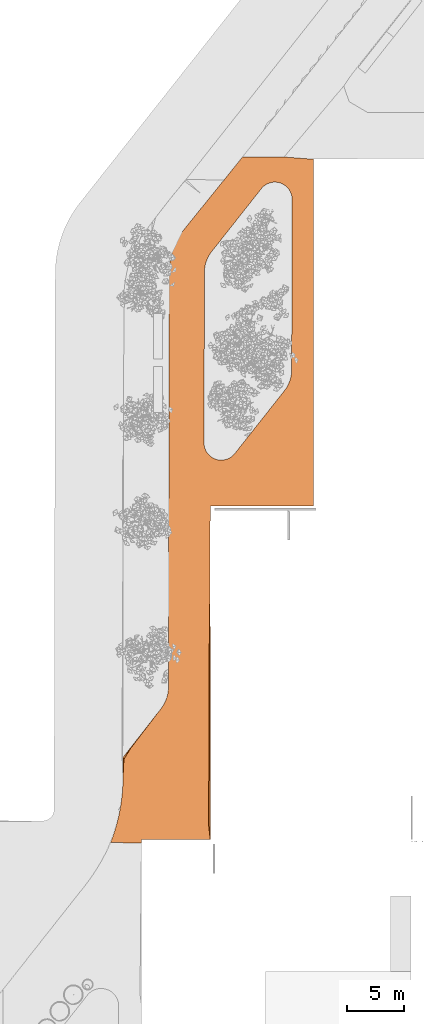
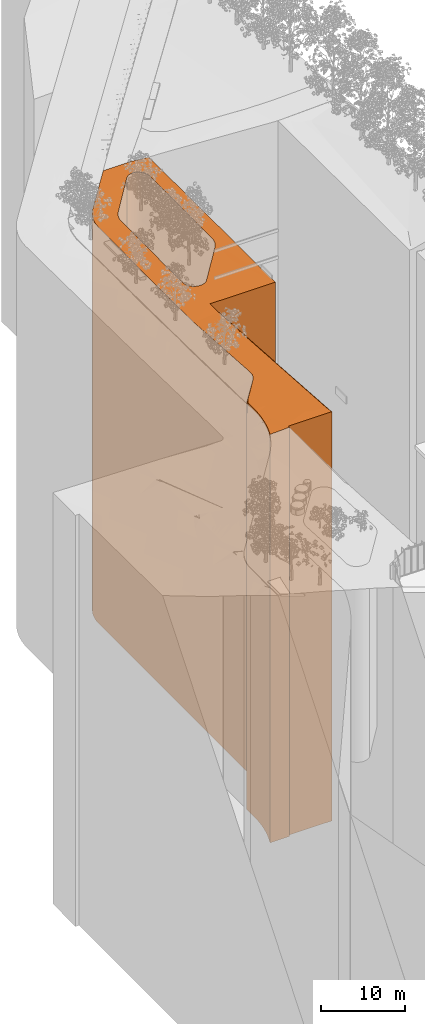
# One storey, part 60 of 69: 1 proxy.
"""IFC2X3 building model written with IfcOpenShell, lengths in millimetres."""

from ifc_helpers import new_model, entity, si_unit, converted_unit, derived_unit, money_unit, direction, frame, origin_with_axes, place, context, subcontext, project, spatial, faceted_brep, material, type_object, element, save


model = new_model("IFC2X3")

# Units and contexts
model_context = context("Model", 3, precision=0.01, world=origin_with_axes(), true_north=direction((0.0, 1.0)))
body_context = subcontext(model_context, "Body", "Model", "MODEL_VIEW")
ifc_project = project(units=[si_unit("LENGTHUNIT", "METRE", prefix="MILLI"), si_unit("AREAUNIT", "SQUARE_METRE"), si_unit("VOLUMEUNIT", "CUBIC_METRE"), converted_unit("PLANEANGLEUNIT", "DEGREE", entity("IfcPlaneAngleMeasure", 0.0174532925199), si_unit("PLANEANGLEUNIT", "RADIAN"), dimensions=[0, 0, 0, 0, 0, 0, 0]), si_unit("SOLIDANGLEUNIT", "STERADIAN"), money_unit("EUR"), converted_unit("TIMEUNIT", "Year", entity("IfcTimeMeasure", 31556926.0), si_unit("TIMEUNIT", "SECOND"), dimensions=[0, 0, 1, 0, 0, 0, 0]), si_unit("MASSUNIT", "GRAM", prefix="KILO"), si_unit("THERMODYNAMICTEMPERATUREUNIT", "DEGREE_CELSIUS"), si_unit("LUMINOUSINTENSITYUNIT", "LUMEN"), si_unit("ENERGYUNIT", "JOULE", prefix="MEGA"), derived_unit("THERMALCONDUCTANCEUNIT", [(si_unit("POWERUNIT", "WATT"), 1), (si_unit("LENGTHUNIT", "METRE"), -1), (si_unit("THERMODYNAMICTEMPERATUREUNIT", "KELVIN"), -1)]), derived_unit("SPECIFICHEATCAPACITYUNIT", [(si_unit("ENERGYUNIT", "JOULE"), 1), (si_unit("MASSUNIT", "GRAM", prefix="KILO"), -1), (si_unit("THERMODYNAMICTEMPERATUREUNIT", "KELVIN"), -1)]), derived_unit("MASSDENSITYUNIT", [(si_unit("MASSUNIT", "GRAM", prefix="KILO"), 1), (si_unit("VOLUMEUNIT", "CUBIC_METRE"), -1)])], contexts=[model_context])

# Site, building, storey
site_placement = place(None, origin_with_axes())
site = spatial("IfcSite", under=ifc_project, at=site_placement, Name="Puškini 31, Narva", CompositionType="ELEMENT")
building_placement = place(site_placement, origin_with_axes())
building = spatial("IfcBuilding", under=site, at=building_placement, Name="Narva Riigigümnaasium", CompositionType="ELEMENT")
storey_placement = place(building_placement, origin_with_axes())
storey = spatial("IfcBuildingStorey", under=building, at=storey_placement, Name="1.korrus 0.00", CompositionType="ELEMENT", Elevation=0.0)

# Proxy
ifc_material = material(Name="Sillutiskivi")
building_element_proxy_type = type_object("IfcBuildingElementProxyType", Name="Sillutiskivi", PredefinedType="NOTDEFINED")
proxy_placement = place(storey_placement, frame((19293.6582923, 194831.390658, -61100.0), z_axis=(0.0, 0.0, 1.0), x_axis=(1.0, 0.0, 0.0)))
element("IfcBuildingElementProxy", 1, at=proxy_placement, inside=storey, type_object=building_element_proxy_type, material=ifc_material, Name="Kergliiklustee", context=body_context, shape_type="Brep", body=[
    faceted_brep([(15827.7346808, 56105.3575711, 57704.752024), (15801.4748314, 44121.6874357, 57701.6866346), (17696.3417079, 59608.6093419, 57710.9791603), (15823.1350635, 56226.0791527, 57704.7689698), (15827.8688624, 56166.5912621, 57704.7676874), (15827.7346808, 56105.3575711, 32257.881548), (15795.2160392, 41265.4908804, 32257.881548), (15795.2160392, 41265.4908804, 57709.9161883), (15671.0011962, 40413.2744079, 57708.8270238), (15642.253169, 40326.3169836, 57708.2502054), (17696.3417079, 29378.6093419, 57800.0), (15791.5349171, 41099.6232503, 57710.2979831), (15776.4390491, 40925.6949644, 57710.3728062), (15751.2556905, 40752.9386842, 57710.1519228), (15716.0700539, 40581.9389624, 57709.6360802), (15818.154104, 56288.6730179, 57706.9372254), (14972.3985664, 57902.7140725, 57800.0), (14915.5513842, 57489.3153487, 57790.3279754), (15009.4936006, 57446.1643374, 57784.1454808), (15116.2453983, 57386.144463, 57776.7847208), (15217.7498112, 57317.6230372, 57769.4362857), (15313.3313442, 57241.0560588, 57762.149078), (15402.353918, 57156.9530685, 57754.971593), (15484.2251021, 57065.8737577, 57747.9515956), (15558.4000571, 56968.4242442, 57741.1358028), (15624.3851611, 56865.2530386, 57734.5695724), (15681.7412941, 56757.046728, 57728.2966017), (15730.0867604, 56644.5254077, 57722.3586364), (15769.0998289, 56528.4378885, 57716.7951924), (15798.5208742, 56409.5567137, 57711.6432938), (15818.154104, 56288.6730179, 32257.881548), (15827.8688624, 56166.5912621, 32257.881548), (8678.34250883, 51357.8476968, 32257.881548), (8586.79352459, 51209.194687, 32257.881548), (8504.04283057, 51055.4700746, 32257.881548), (8430.37042892, 50897.1940149, 32257.881548), (8366.02560373, 50734.902064, 32257.881548), (8311.22607751, 50569.1433666, 32257.881548), (8266.15727452, 50400.4787976, 32257.881548), (8230.97169332, 50229.4790645, 32257.881548), (8205.78839077, 50056.7227763, 32257.881548), (8190.69257921, 49882.7944856, 32257.881548), (8187.01151297, 49716.9278277, 32257.881548), (8154.49286769, 34877.0609693, 32257.881548), (8154.35868612, 34815.8272784, 32257.881548), (8164.07344448, 34693.7455225, 32257.881548), (8183.70667424, 34572.8618267, 32257.881548), (8213.12771948, 34453.9806519, 32257.881548), (8252.14078802, 34337.8931326, 32257.881548), (8300.4862543, 34225.3718123, 32257.881548), (8357.84238723, 34117.1655018, 32257.881548), (8423.82749122, 34013.9942961, 32257.881548), (8498.00244627, 33916.5447826, 32257.881548), (8579.87363031, 33825.4654718, 32257.881548), (8668.8962041, 33741.3624814, 32257.881548), (8764.47773711, 33664.795503, 32257.881548), (8865.98215001, 33596.2740772, 32257.881548), (8972.73394767, 33536.2542028, 32257.881548), (9084.0227145, 33485.1353021, 32257.881548), (9199.10784211, 33443.2575629, 32257.881548), (9317.22345797, 33410.8996748, 32257.881548), (9437.58352213, 33388.2769741, 32257.881548), (9559.38705824, 33375.5400112, 32257.881548), (9681.82348385, 33372.7735484, 32257.881548), (9804.07800476, 33379.9959961, 32257.881548), (9925.33703729, 33397.1592902, 32257.881548), (10044.7936226, 33424.1492116, 32257.881548), (10161.6527968, 33460.786147, 32257.881548), (10275.1368814, 33506.8262836, 32257.881548), (10384.4906585, 33561.9632319, 32257.881548), (10488.9863968, 33625.8300645, 32257.881548), (10587.9286944, 33698.0017583, 32257.881548), (10680.6591065, 33777.9980226, 32257.881548), (10766.5605277, 33865.2864953, 32257.881548), (10831.7542338, 33944.2326321, 32257.881548), (15149.7531766, 39412.981992, 32257.881548), (15203.8469608, 39481.491816, 32257.881548), (15303.8845089, 39624.5701961, 32257.881548), (15395.4335414, 39773.2231763, 32257.881548), (15478.1842853, 39926.9477621, 32257.881548), (15551.8567383, 40085.223798, 32257.881548), (15616.2016162, 40247.5157281, 32257.881548), (15671.0011962, 40413.2744079, 32257.881548), (15716.0700539, 40581.9389624, 32257.881548), (15751.2556905, 40752.9386842, 32257.881548), (15776.4390491, 40925.6949644, 32257.881548), (15791.5349171, 41099.6232503, 32257.881548), (15798.5208742, 56409.5567137, 32257.881548), (15769.0998289, 56528.4378885, 32257.881548), (15730.0867604, 56644.5254077, 32257.881548), (15681.7412941, 56757.046728, 32257.881548), (15624.3851611, 56865.2530386, 32257.881548), (15558.4000571, 56968.4242442, 32257.881548), (15484.2251021, 57065.8737577, 32257.881548), (15402.353918, 57156.9530685, 32257.881548), (15313.3313442, 57241.0560588, 32257.881548), (15217.7498112, 57317.6230372, 32257.881548), (15116.2453983, 57386.144463, 32257.881548), (15009.4936006, 57446.1643374, 32257.881548), (14898.2048338, 57497.2832381, 32257.881548), (14783.1197062, 57539.1609772, 32257.881548), (14665.0040903, 57571.5188653, 32257.881548), (14544.6440261, 57594.141566, 32257.881548), (14422.84049, 57606.8785289, 32257.881548), (14300.4040644, 57609.6449916, 32257.881548), (14178.1495435, 57602.4225438, 32257.881548), (14056.890511, 57585.2592498, 32257.881548), (13937.4339257, 57558.2693283, 32257.881548), (13820.5747515, 57521.6323929, 32257.881548), (13707.090667, 57475.5922562, 32257.881548), (13597.7368899, 57420.4553079, 32257.881548), (13493.2411516, 57356.5884753, 32257.881548), (13394.298854, 57284.4167815, 32257.881548), (13301.5684419, 57204.4205172, 32257.881548), (13215.6670207, 57117.1320445, 32257.881548), (13150.4733283, 57038.1859249, 32257.881548), (8832.47377242, 51569.4359508, 32257.881548), (8778.38001049, 51500.9261093, 32257.881548), (15616.2016162, 40247.5157281, 57706.8922166), (15551.8567383, 40085.223798, 57703.5669896), (15482.3848678, 39935.9721951, 57700.0), (15554.829352, 35926.0095842, 57700.0), (17696.3417079, 29378.6093419, 0.0), (17696.3417079, 59608.6093419, 0.0), (16074.2545291, 59333.020811, 57800.0), (14898.2048338, 57497.2832381, 57790.738164), (14364.0202498, 57608.2075778, 57800.0), (14422.84049, 57606.8785289, 57799.2529917), (14544.6440261, 57594.141566, 57797.4558373), (14665.0040903, 57571.5188653, 57795.4284126), (14783.1197062, 57539.1609772, 57793.1842099), (8678.34250883, 51357.8476968, 57712.261107), (8586.79352459, 51209.194687, 57710.4964057), (8504.04283057, 51055.4700746, 57708.5023208), (8430.37042892, 50897.1940149, 57706.2855996), (8366.02560373, 50734.902064, 57703.8537427), (8311.22607751, 50569.1433666, 57701.2149788), (8291.92307573, 50496.9042065, 57700.0), (8276.06747465, 50437.5665284, 57698.4772684), (8266.15727452, 50400.4787976, 57698.8384835), (8231.79663464, 50233.488228, 57700.0), (8230.97169332, 50229.4790645, 57700.0199317), (8205.78839077, 50056.7227763, 57700.5431852), (8190.69257921, 49882.7944856, 57700.7377923), (8187.01151297, 49716.9278277, 57700.5763933), (8186.23222549, 49361.3003888, 57700.0), (8183.8342889, 48267.0032764, 57697.5185663), (8177.28211721, 45276.9231306, 57698.1492166), (8177.08320273, 45186.1486117, 57698.6731433), (8162.42010728, 38494.652632, 57649.5068841), (8155.88732047, 35513.4187703, 57700.0), (8154.49286769, 34877.0609693, 57700.0), (8154.35868612, 34815.8272784, 57700.0), (8164.07344448, 34693.7455225, 57700.0), (8183.70667424, 34572.8618267, 57700.0), (8198.47608524, 34513.1832899, 57700.0), (8213.12771948, 34453.9806519, 57701.2178324), (8252.14078802, 34337.8931326, 57703.6806167), (8300.4862543, 34225.3718123, 57706.1443414), (8357.84238723, 34117.1655018, 57708.5926108), (8423.82749122, 34013.9942961, 57711.0091322), (8498.00244627, 33916.5447826, 57713.3778239), (8579.87363031, 33825.4654718, 57715.6829228), (8668.8962041, 33741.3624814, 57717.9090888), (8764.47773711, 33664.795503, 57720.041507), (8865.98215001, 33596.2740772, 57722.0659867), (8972.73394767, 33536.2542028, 57723.9690552), (9084.0227145, 33485.1353021, 57725.7380479), (9199.10784211, 33443.2575629, 57727.3611925), (9317.22345797, 33410.8996748, 57728.8276872), (9437.58352213, 33388.2769741, 57730.1277728), (9542.6080505, 33377.2945875, 57731.0978199), (9559.38705824, 33375.5400112, 57731.1280533), (9681.82348385, 33372.7735484, 57731.1757222), (9804.07800476, 33379.9959961, 57731.05127), (9925.33703729, 33397.1592902, 57730.755525), (10044.7936226, 33424.1492116, 57730.2904551), (10161.6527968, 33460.786147, 57729.6591555), (10275.1368814, 33506.8262836, 57728.8658273), (10384.4906585, 33561.9632319, 57727.9157499), (10488.9863968, 33625.8300645, 57726.8152461), (10587.9286944, 33698.0017583, 57725.5716393), (10680.6591065, 33777.9980226, 57724.1932057), (10766.5605277, 33865.2864953, 57722.6891186), (10831.7542338, 33944.2326321, 57721.3287801), (13882.3443606, 37807.8102163, 57661.8177614), (15149.7531766, 39412.981992, 57694.3349162), (11110.0906862, 34296.7462225, 57715.2545399), (12028.6169933, 35460.0613527, 57700.0), (15203.8469608, 39481.491816, 57695.7227684), (15303.8845089, 39624.5701961, 57698.3087334), (15368.7370309, 39729.8747242, 57700.0), (15395.4335414, 39773.2231763, 57700.0), (15478.1842853, 39926.9477621, 57700.0), (14300.4040644, 57609.6449916, 57800.0), (14178.1495435, 57602.4225438, 57800.0), (14056.890511, 57585.2592498, 57800.0), (13937.4339257, 57558.2693283, 57800.0), (13820.5747515, 57521.6323929, 57800.0), (13707.090667, 57475.5922562, 57800.0), (13597.7368899, 57420.4553079, 57800.0), (13493.2411516, 57356.5884753, 57800.0), (13394.298854, 57284.4167815, 57800.0), (13301.5684419, 57204.4205172, 57800.0), (13215.6670207, 57117.1320445, 57800.0), (13150.4733283, 57038.1859249, 57800.0), (13130.059745, 57012.3320869, 57800.0), (10698.2721556, 53932.4689688, 57736.6616721), (8832.47377242, 51569.4359508, 57714.4348617), (8778.38001049, 51500.9261093, 57713.7904533), (733.758179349, 2430.11127143, 0.0), (799.605177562, 2761.82104086, 0.0), (837.336523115, 2953.12567347, 0.0), (902.922805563, 3337.55109814, 0.0), (958.589191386, 3723.53778323, 0.0), (1004.29877015, 4110.8297945, 0.0), (1040.02123345, 4499.17033216, 0.0), (1065.73289495, 4888.30190123, 0.0), (1072.44204742, 5055.61376117, 0.0), (1080.48079368, 5250.70126471, 0.0), (1086.54780288, 5641.16024247, 0.0), (1085.33846989, 5702.80289556, 0.0), (1088.87873712, 7318.40226928, 0.0), (1089.17760538, 7454.79066453, 0.0), (4395.41911165, 11694.678709, 0.0), (4449.51289582, 11763.188533, 0.0), (4502.12266219, 11838.4394413, 0.0), (4552.03343627, 11910.0540215, 0.0), (4643.35806714, 12058.8449678, 0.0), (4725.87676708, 12212.6942384, 0.0), (4799.31031892, 12371.081256, 0.0), (4863.41024677, 12533.4700892, 0.0), (4917.95965677, 12699.3112655, 0.0), (4966.34039923, 12889.1299046, 0.0), (4985.67920323, 12974.2518414, 0.0), (5014.39257394, 13146.4565924, 0.0), (5033.04455038, 13320.0395341, 0.0), (5041.57202018, 13494.413317, 0.0), (5040.8819739, 13547.1875965, 0.0), (5045.31445601, 15569.9485043, 0.0), (5090.27531705, 36087.8140925, 0.0), (5120.28817461, 49784.166057, 0.0), (5121.36730506, 49939.2552175, 0.0), (5133.33203446, 50185.3986519, 0.0), (5155.39210201, 50430.8433473, 0.0), (5187.51030944, 50675.1754283, 0.0), (5229.6324982, 50917.9828958, 0.0), (5281.68764075, 51158.8563215, 0.0), (5343.58796033, 51397.3895383, 0.0), (5415.22907901, 51633.1803251, 0.0), (5496.49019366, 51865.8310855, 0.0), (5541.86223665, 51980.3903016, 0.0), (5596.06697606, 52115.8683174, 0.0), (5696.99239258, 52340.6878109, 0.0), (5807.06268833, 52561.1742604, 0.0), (5926.09225989, 52776.9558757, 0.0), (6053.88039647, 52987.6688002, 0.0), (6190.21161836, 53192.9577242, 0.0), (6334.85604029, 53392.4764842, 0.0), (6411.21289966, 53489.1825654, 0.0), (8375.45181556, 55920.8685591, 0.0), (11501.2542038, 59790.5454223, 0.0), (15430.6538205, 59781.9349096, 0.0), (8696.38188521, 29378.6119125, 0.0), (8695.21183391, 27441.6533232, 0.0), (8696.38188521, 278.609341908, 0.0), (2696.3417062, 278.609341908, 0.0), (2694.71050259, 0.0, 0.0), (0.0, 15.7770068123, 0.0), (71.7656003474, 196.375477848, 0.0), (205.949148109, 561.148300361, 0.0), (330.696070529, 929.255135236, 0.0), (445.92365229, 1300.45190372, 0.0), (551.555490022, 1674.49247825, 0.0), (647.521542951, 2051.12884561, 0.0), (15430.6538205, 59781.9349096, 57800.0), (8696.38188521, 29378.6119125, 57800.0), (11501.2542038, 59790.5454223, 57800.0), (8375.45181556, 55920.8685591, 57800.0), (7663.90217935, 54916.3439236, 57800.0), (8243.82795502, 50463.7901569, 57700.0), (5120.28817461, 49784.166057, 57800.0), (8129.40407199, 48273.5034586, 57700.0), (8136.77616822, 45244.3965019, 57700.0), (5090.27531705, 36087.8140925, 57700.0), (5081.90421495, 32267.665997, 57700.0), (5478.32051184, 33459.1239501, 57700.0), (733.758179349, 2430.11127143, 59511.7790509), (799.605177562, 2761.82104086, 59500.0), (837.336523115, 2953.12567347, 59500.0), (902.922805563, 3337.55109814, 59500.0), (958.589191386, 3723.53778323, 59500.0), (1004.29877015, 4110.8297945, 59500.0), (1040.02123345, 4499.17033216, 59500.0), (1065.73289495, 4888.30190123, 59500.0), (1072.44204742, 5055.61376117, 59500.0), (1080.48079368, 5250.70126471, 59500.0), (1086.54780288, 5641.16024247, 59500.0), (1085.33846989, 5702.80289556, 59500.0), (1088.87873712, 7318.40226928, 57800.0), (1089.17760538, 7454.79066453, 59291.6352864), (4395.41911165, 11694.678709, 58900.0), (4449.51289582, 11763.188533, 58900.0), (4502.12266219, 11838.4394413, 58900.0), (4552.03343627, 11910.0540215, 58892.5412611), (4643.35806714, 12058.8449678, 58877.4798371), (4725.87676708, 12212.6942384, 58862.32543), (4799.31031892, 12371.081256, 58847.1293176), (4863.41024677, 12533.4700892, 58831.9429186), (4917.95965677, 12699.3112655, 58816.8176191), (4966.34039923, 12889.1299046, 58800.0), (4985.67920323, 12974.2518414, 58786.8998711), (5014.39257394, 13146.4565924, 58760.5747558), (5033.04455038, 13320.0395341, 58734.2138588), (5041.57202018, 13494.413317, 58707.9063772), (5040.8819739, 13547.1875965, 58700.0), (5045.31445601, 15569.9485043, 58600.0), (5048.4407291, 16996.6216084, 58500.0), (5051.5670022, 18423.2947126, 58400.0), (5054.70003966, 19853.0547298, 58300.0), (5057.81954839, 21276.640921, 58200.0), (5061.09920473, 22773.3103877, 58100.0), (5064.15721413, 24168.8313879, 58000.0), (5067.21450575, 25564.0248346, 57900.0), (5070.27130254, 26958.9924604, 57800.0), (5121.36730506, 49939.2552175, 57800.0), (5133.33203446, 50185.3986519, 57800.0), (5155.39210201, 50430.8433473, 57800.0), (5187.51030944, 50675.1754283, 57800.0), (5229.6324982, 50917.9828958, 57800.0), (5281.68764075, 51158.8563215, 57800.0), (5343.58796033, 51397.3895383, 57800.0), (5415.22907901, 51633.1803251, 57800.0), (5496.49019366, 51865.8310855, 57800.0), (5541.86223665, 51980.3903016, 57800.0), (5596.06697606, 52115.8683174, 57800.0), (5696.99239258, 52340.6878109, 57800.0), (5807.06268833, 52561.1742604, 57800.0), (5926.09225989, 52776.9558757, 57800.0), (6053.88039647, 52987.6688002, 57800.0), (6190.21161836, 53192.9577242, 57800.0), (6334.85604029, 53392.4764842, 57800.0), (6411.21289966, 53489.1825654, 57800.0), (8695.21183391, 27441.6533232, 57800.0), (8696.38188521, 278.609341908, 59700.0), (2696.3417062, 278.609341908, 59700.0), (2694.71050259, 0.0, 59700.0), (2507.90884683, 1.09368742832, 59700.0), (369.556261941, 13.6133265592, 59600.0), (0.0, 15.7770068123, 59600.0), (71.7656003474, 196.375477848, 59593.2358563), (205.949148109, 561.148300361, 59579.6789006), (330.696070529, 929.255135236, 59566.1022659), (445.92365229, 1300.45190372, 59552.5149543), (551.555490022, 1674.49247825, 59538.9259752), (647.521542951, 2051.12884561, 59525.3443389), (875.022774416, 2764.71365153, 59500.0), (2082.45690831, 2811.02428732, 59600.0), (1153.37288036, 5058.71782978, 59500.0), (1561.40091659, 5074.36757626, 59500.0), (2659.30202254, 5521.57612143, 59500.0), (1171.94320824, 7285.35606548, 59400.0), (1747.45195997, 8228.44888458, 59300.0), (5583.47199796, 11551.8721808, 58900.0), (5246.72377619, 12814.8257981, 58800.0), (5197.87141281, 14162.4848732, 58700.0), (5045.60836873, 14149.3556232, 58700.0), (5580.86283323, 15637.2021332, 58600.0), (5963.85425353, 17111.9193932, 58500.0), (6346.84567394, 18586.6366533, 58400.0), (6729.83709425, 20061.3539133, 58300.0), (7112.82851479, 21536.0711742, 58200.0), (7495.81993509, 23010.7884342, 58100.0), (7878.8113555, 24485.5056943, 58000.0), (8261.80277592, 25960.2229543, 57900.0), (8639.84784109, 26071.4523427, 57900.0), (8550.81343439, 1528.67064698, 59700.0), (8277.45777289, 1448.24324318, 59700.0), (8154.5472661, 1480.81562877, 59700.0), (6927.36736253, 1479.4733552, 59700.0), (5897.21621606, 1889.30663601, 59700.0), (2603.51290015, 547.680999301, 59700.0), (1522.45297191, 1345.61780813, 59600.0), (4278.2591193, 3705.44137872, 59600.0), (2454.55899635, 9119.18690472, 59200.0), (3161.6660326, 10009.9249239, 59100.0), (3868.77306885, 10900.6629431, 59000.0), (4721.84277531, 10606.4993206, 59000.0), (8560.70614627, 4255.64639084, 59500.0), (8555.75979032, 2892.15851844, 59600.0), (8634.90148503, 24707.9644703, 58000.0), (8629.95512921, 23344.4765989, 58100.0), (8625.00877327, 21980.9887265, 58200.0), (8620.06241733, 20617.500855, 58300.0), (8615.11606139, 19254.0129826, 58400.0), (8610.16970544, 17890.5251102, 58500.0), (8605.22334962, 16527.0372387, 58600.0), (8600.27699356, 15163.5493663, 58700.0), (8595.33063774, 13800.0614949, 58800.0), (8590.38428179, 12436.5736224, 58900.0), (8585.43792586, 11073.085751, 59000.0), (8580.49156991, 9709.59787859, 59100.0), (8575.54521409, 8346.11000711, 59200.0), (8570.59885815, 6982.6221347, 59300.0), (8565.65250221, 5619.13426324, 59400.0), (7664.16091024, 2784.48472721, 59600.0), (6596.0992022, 2783.31649574, 59600.0), (6264.83104174, 4087.15963535, 59500.0), (5933.56288141, 5391.00277588, 59400.0), (5602.29472096, 6694.84591643, 59300.0), (5271.02656063, 7998.68905696, 59200.0), (4939.75840017, 9302.53219657, 59100.0), (4608.49023984, 10606.3753371, 59000.0), (5920.22021996, 10288.9185644, 59000.0), (7603.96132925, 3974.1504778, 59500.0), (7940.70955101, 2711.1968605, 59600.0), (6256.96844184, 9025.96494707, 59100.0), (6593.71666361, 7763.01132976, 59200.0), (6930.46488549, 6500.05771244, 59300.0), (7267.21310737, 5237.10409512, 59400.0), (7173.7745545, 4088.15382657, 59500.0), (6683.38819852, 5391.82292503, 59400.0), (6193.00184278, 6695.49202439, 59300.0), (5702.61548692, 7999.16112283, 59200.0), (5212.22913118, 9302.83022219, 59100.0)], [[[0, 1, 2, 3, 4]], [[1, 0, 5, 6, 7]], [[8, 9, 10, 2, 1, 7, 11, 12, 13, 14]], [[15, 3, 2, 16, 17, 18, 19, 20, 21, 22, 23, 24, 25, 26, 27, 28, 29]], [[4, 3, 15, 30, 31]], [[0, 4, 31, 5]], [[32, 33, 34, 35, 36, 37, 38, 39, 40, 41, 42, 43, 44, 45, 46, 47, 48, 49, 50, 51, 52, 53, 54, 55, 56, 57, 58, 59, 60, 61, 62, 63, 64, 65, 66, 67, 68, 69, 70, 71, 72, 73, 74, 75, 76, 77, 78, 79, 80, 81, 82, 83, 84, 85, 86, 6, 5, 31, 30, 87, 88, 89, 90, 91, 92, 93, 94, 95, 96, 97, 98, 99, 100, 101, 102, 103, 104, 105, 106, 107, 108, 109, 110, 111, 112, 113, 114, 115, 116, 117]], [[11, 7, 6, 86]], [[9, 8, 82, 81, 118]], [[119, 120, 121, 10, 9, 118]], [[122, 123, 2, 10]], [[12, 11, 86, 85]], [[13, 12, 85, 84]], [[14, 13, 84, 83]], [[8, 14, 83, 82]], [[16, 2, 124]], [[125, 17, 16, 126, 127, 128, 129, 130]], [[18, 17, 125, 99, 98]], [[19, 18, 98, 97]], [[20, 19, 97, 96]], [[21, 20, 96, 95]], [[22, 21, 95, 94]], [[23, 22, 94, 93]], [[24, 23, 93, 92]], [[25, 24, 92, 91]], [[26, 25, 91, 90]], [[27, 26, 90, 89]], [[28, 27, 89, 88]], [[29, 28, 88, 87]], [[15, 29, 87, 30]], [[131, 132, 33, 32]], [[132, 133, 34, 33]], [[133, 134, 35, 34]], [[134, 135, 36, 35]], [[135, 136, 37, 36]], [[136, 137, 138, 139, 38, 37]], [[139, 140, 141, 39, 38]], [[141, 142, 40, 39]], [[142, 143, 41, 40]], [[143, 144, 42, 41]], [[144, 145, 146, 147, 148, 149, 150, 151, 43, 42]], [[151, 152, 44, 43]], [[152, 153, 45, 44]], [[153, 154, 46, 45]], [[155, 156, 47, 46, 154]], [[156, 157, 48, 47]], [[157, 158, 49, 48]], [[158, 159, 50, 49]], [[159, 160, 51, 50]], [[160, 161, 52, 51]], [[161, 162, 53, 52]], [[162, 163, 54, 53]], [[163, 164, 55, 54]], [[164, 165, 56, 55]], [[165, 166, 57, 56]], [[166, 167, 58, 57]], [[167, 168, 59, 58]], [[168, 169, 60, 59]], [[169, 170, 61, 60]], [[171, 172, 62, 61, 170]], [[172, 173, 63, 62]], [[173, 174, 64, 63]], [[174, 175, 65, 64]], [[175, 176, 66, 65]], [[176, 177, 67, 66]], [[177, 178, 68, 67]], [[178, 179, 69, 68]], [[179, 180, 70, 69]], [[180, 181, 71, 70]], [[181, 182, 72, 71]], [[182, 183, 73, 72]], [[183, 184, 74, 73]], [[185, 186, 75, 74, 184, 187, 188]], [[186, 189, 76, 75]], [[189, 190, 77, 76]], [[191, 192, 78, 77, 190]], [[192, 193, 79, 78]], [[120, 119, 80, 79, 193]], [[119, 118, 81, 80]], [[125, 130, 100, 99]], [[130, 129, 101, 100]], [[129, 128, 102, 101]], [[128, 127, 103, 102]], [[127, 126, 194, 104, 103]], [[194, 195, 105, 104]], [[195, 196, 106, 105]], [[196, 197, 107, 106]], [[197, 198, 108, 107]], [[198, 199, 109, 108]], [[199, 200, 110, 109]], [[200, 201, 111, 110]], [[201, 202, 112, 111]], [[202, 203, 113, 112]], [[203, 204, 114, 113]], [[204, 205, 115, 114]], [[205, 206, 207, 208, 116, 115]], [[208, 209, 117, 116]], [[209, 131, 32, 117]], [[192, 191, 121, 120, 193]], [[188, 187, 10, 121]], [[210, 211, 212, 213, 214, 215, 216, 217, 218, 219, 220, 221, 222, 223, 224, 225, 226, 227, 228, 229, 230, 231, 232, 233, 234, 235, 236, 237, 238, 239, 240, 241, 242, 243, 244, 245, 246, 247, 248, 249, 250, 251, 252, 253, 254, 255, 256, 257, 258, 259, 260, 261, 262, 123, 122, 263, 264, 265, 266, 267, 268, 269, 270, 271, 272, 273, 274]], [[123, 262, 275, 2]], [[263, 122, 10, 276]], [[2, 275, 124]], [[194, 126, 16, 124, 275, 277, 278, 279, 206, 205, 204, 203, 202, 201, 200, 199, 198, 197, 196, 195]], [[208, 207, 279, 280, 137, 136, 135, 134, 133, 132, 131, 209]], [[138, 137, 280]], [[139, 138, 280, 140]], [[141, 140, 280, 281, 282, 145, 144, 143, 142]], [[146, 145, 282]], [[147, 146, 282, 283]], [[148, 147, 283]], [[149, 148, 283, 284]], [[150, 149, 284]], [[151, 150, 284, 285, 286, 155, 154, 153, 152]], [[156, 155, 286, 276, 171, 170, 169, 168, 167, 166, 165, 164, 163, 162, 161, 160, 159, 158, 157]], [[172, 171, 276, 10, 187, 184, 183, 182, 181, 180, 179, 178, 177, 176, 175, 174, 173]], [[186, 185, 121, 191, 190, 189]], [[185, 188, 121]], [[207, 206, 279]], [[211, 210, 287, 288]], [[212, 211, 288, 289]], [[213, 212, 289, 290]], [[214, 213, 290, 291]], [[215, 214, 291, 292]], [[216, 215, 292, 293]], [[217, 216, 293, 294]], [[218, 217, 294, 295]], [[219, 218, 295, 296]], [[220, 219, 296, 297]], [[221, 220, 297, 298]], [[222, 221, 298, 299]], [[223, 222, 299, 300]], [[224, 223, 300, 301]], [[225, 224, 301, 302]], [[226, 225, 302, 303]], [[227, 226, 303, 304]], [[228, 227, 304, 305]], [[229, 228, 305, 306]], [[230, 229, 306, 307]], [[231, 230, 307, 308]], [[232, 231, 308, 309]], [[233, 232, 309, 310]], [[234, 233, 310, 311]], [[235, 234, 311, 312]], [[236, 235, 312, 313]], [[237, 236, 313, 314]], [[238, 237, 314, 315]], [[239, 238, 315, 316]], [[240, 239, 316, 317, 318, 319, 320, 321, 322, 323, 324, 285, 284]], [[241, 240, 284, 281]], [[242, 241, 281, 325]], [[243, 242, 325, 326]], [[244, 243, 326, 327]], [[245, 244, 327, 328]], [[246, 245, 328, 329]], [[247, 246, 329, 330]], [[248, 247, 330, 331]], [[249, 248, 331, 332]], [[250, 249, 332, 333]], [[251, 250, 333, 334]], [[252, 251, 334, 335]], [[253, 252, 335, 336]], [[254, 253, 336, 337]], [[255, 254, 337, 338]], [[256, 255, 338, 339]], [[257, 256, 339, 340]], [[258, 257, 340, 341]], [[259, 258, 341, 342]], [[260, 259, 342, 278]], [[261, 260, 278, 277]], [[262, 261, 277, 275]], [[264, 263, 276, 343]], [[265, 264, 343, 344]], [[266, 265, 344, 345]], [[267, 266, 345, 346]], [[268, 267, 346, 347, 348, 349]], [[269, 268, 349, 350]], [[270, 269, 350, 351]], [[271, 270, 351, 352]], [[272, 271, 352, 353]], [[273, 272, 353, 354]], [[274, 273, 354, 355]], [[210, 274, 355, 287]], [[278, 342, 279]], [[279, 342, 280]], [[325, 281, 280]], [[283, 282, 281]], [[281, 284, 283]], [[286, 285, 276]], [[356, 288, 287]], [[289, 288, 356]], [[290, 289, 357]], [[291, 290, 357]], [[292, 291, 357]], [[358, 295, 294, 293, 292, 359]], [[295, 358, 359, 360, 298, 297, 296]], [[299, 298, 361]], [[300, 299, 361]], [[300, 362, 301]], [[303, 302, 301, 363]], [[304, 303, 363]], [[305, 304, 363]], [[306, 305, 363]], [[307, 306, 363]], [[364, 308, 307]], [[309, 308, 364]], [[310, 309, 364]], [[311, 310, 364]], [[312, 311, 364]], [[313, 312, 364]], [[314, 313, 364]], [[365, 315, 314]], [[315, 366, 316]], [[317, 316, 367]], [[318, 317, 368]], [[319, 318, 369]], [[320, 319, 370]], [[321, 320, 371]], [[322, 321, 372]], [[323, 322, 373]], [[324, 323, 374]], [[276, 285, 324]], [[326, 325, 280]], [[327, 326, 280]], [[328, 327, 280]], [[329, 328, 280]], [[330, 329, 280]], [[331, 330, 280]], [[332, 331, 280]], [[333, 332, 280]], [[334, 333, 280]], [[335, 334, 280]], [[336, 335, 280]], [[337, 336, 280]], [[338, 337, 280]], [[339, 338, 280]], [[340, 339, 280]], [[341, 340, 280]], [[342, 341, 280]], [[324, 343, 276]], [[343, 375, 344]], [[346, 345, 344, 376, 377, 378, 379, 380, 381, 347]], [[382, 348, 347]], [[350, 349, 348]], [[351, 350, 348]], [[352, 351, 348]], [[382, 353, 352]], [[382, 354, 353]], [[382, 355, 354]], [[287, 355, 382]], [[287, 357, 356]], [[356, 357, 289]], [[359, 292, 357]], [[360, 359, 357, 383]], [[361, 298, 360]], [[361, 362, 300]], [[384, 385, 386, 301, 362]], [[387, 363, 301]], [[363, 364, 307]], [[365, 314, 364]], [[366, 315, 365]], [[316, 366, 365]], [[367, 316, 365]], [[367, 368, 317]], [[368, 369, 318]], [[369, 370, 319]], [[370, 371, 320]], [[371, 372, 321]], [[372, 373, 322]], [[373, 374, 323]], [[374, 343, 324]], [[343, 374, 375]], [[388, 389, 376, 344, 375, 390, 391, 392, 393, 394, 395, 396, 397, 398, 399, 400, 401, 402, 403, 404]], [[378, 377, 376]], [[405, 406, 379, 378]], [[380, 379, 406, 383]], [[380, 383, 357, 381]], [[347, 381, 382]], [[382, 352, 348]], [[382, 357, 287]], [[406, 407, 360, 383]], [[407, 408, 361, 360]], [[408, 409, 362, 361]], [[410, 411, 385, 384]], [[386, 385, 411, 412]], [[301, 386, 412]], [[409, 410, 384, 362]], [[363, 387, 413]], [[301, 412, 387]], [[399, 398, 364, 363]], [[398, 397, 365, 364]], [[365, 397, 396, 367]], [[395, 368, 367, 396]], [[395, 394, 369, 368]], [[394, 393, 370, 369]], [[393, 392, 371, 370]], [[392, 391, 372, 371]], [[391, 390, 373, 372]], [[390, 375, 374, 373]], [[389, 388, 414, 415]], [[376, 389, 415]], [[400, 399, 363, 413]], [[401, 400, 413, 416]], [[402, 401, 416, 417]], [[403, 402, 417, 418]], [[404, 403, 418, 419]], [[404, 419, 414, 388]], [[376, 415, 378]], [[420, 407, 406, 405]], [[415, 405, 378]], [[382, 381, 357]], [[421, 408, 407, 420]], [[409, 408, 421, 422]], [[411, 410, 423, 424]], [[424, 387, 412, 411]], [[423, 410, 409, 422]], [[387, 424, 416, 413]], [[405, 415, 414, 420]], [[424, 423, 417, 416]], [[423, 422, 418, 417]], [[422, 421, 419, 418]], [[419, 421, 420, 414]]]),
])

save(model, "model.ifc")
